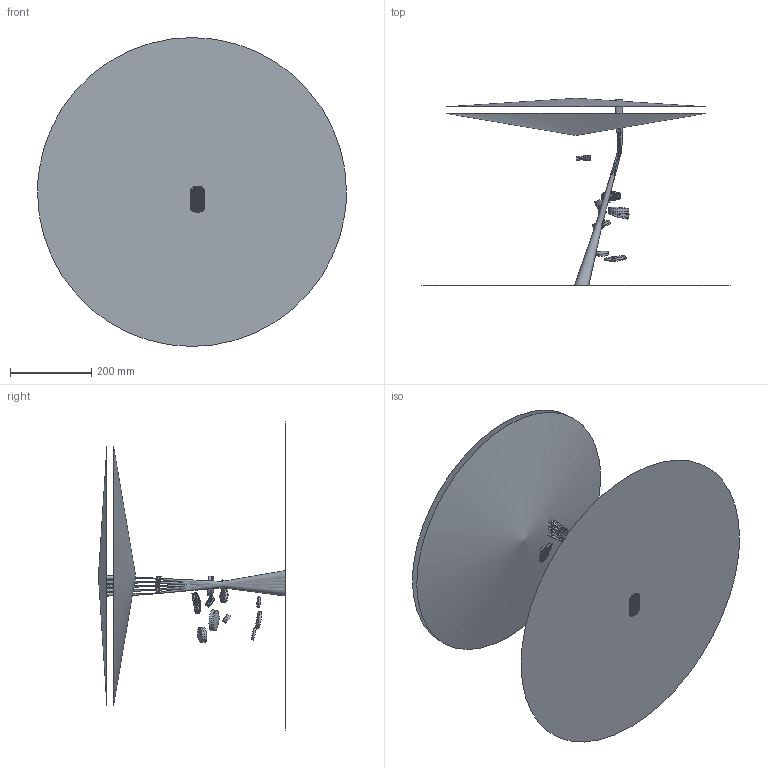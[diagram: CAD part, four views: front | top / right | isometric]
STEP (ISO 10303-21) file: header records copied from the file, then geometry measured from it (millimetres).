
FILE_DESCRIPTION ((), '1');
FILE_NAME ('C:\Documents and Settings\mgladders\My Documents\gismo\jan06\model1-ray2.STP', '2006-01-03T17:49:52', ('Unknown'), ('Unknown'), 'HarmonyWare STEP v1.1.8', 'HarmonyWare Translators', '');
FILE_SCHEMA (('CONFIG_CONTROL_DESIGN'));
Length unit declared in the file: millimetre
Products named in the file (3467): product-name
Bounding box: 762 x 461.44 x 762 mm (x, y, z)
Volume: 1052948.2 mm3; surface area: 1396147.4 mm2
Topology: 56 solids, 3467 shells, 20063 faces, 46830 edges, 22190 vertices
Faces by surface type: bspline 20063
Entity records: 801845 total; most frequent: CARTESIAN_POINT 232360, ORIENTED_EDGE 67230, EDGE_CURVE 38730, B_SPLINE_CURVE_WITH_KNOTS 38698, PERSON 27736, ORGANIZATION 27736, PERSON_AND_ORGANIZATION 27736, VERTEX_POINT 22190
